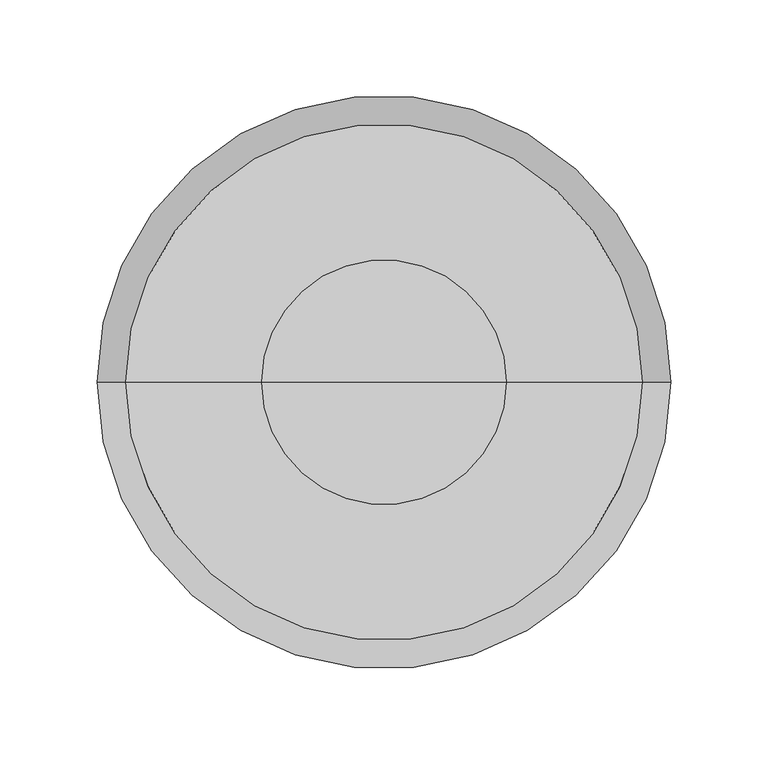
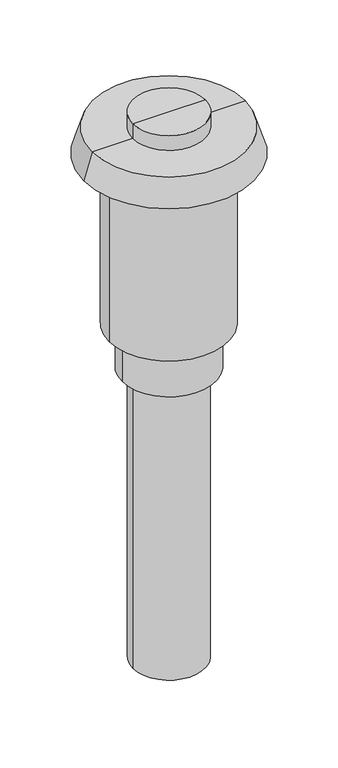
"""IFC4 building model written with IfcOpenShell, lengths in millimetres: air terminal geometry, NLRS_57_AIR_WPB_roof ventilation terminals_M&G : EPS Black, ø125 - L=1000mm."""

from ifc_helpers import new_model, si_unit, frame, origin, place, context, project, spatial, polyline, circle_curve, source, transform, mapped, element, save
from ifc_brep_helpers import plane_surface, cylinder_surface, revolved_surface, advanced_brep


def air_terminal_684b394b(model_context):
    return source(origin(), model_context, "Body", "AdvancedBrep", [
        advanced_brep(
        [(63.0, 0.0, 467.0), (-63.0, 0.0, 467.0), (0.0, 0.0, 467.0), (63.0, 0.0, 440.0), (-63.0, 0.0, 440.0), (0.0, 0.0, 440.0)],
        [
            (0, 1, circle_curve(frame((0.0, 0.0, 467.0), z_axis=(0.0, 0.0, 1.0), x_axis=(-1.0, 0.0, 0.0)), 63.0)),
            (1, 2),
            (2, 0),
            (1, 0, circle_curve(frame((0.0, 0.0, 467.0), z_axis=(0.0, 0.0, 1.0), x_axis=(-1.0, 0.0, 0.0)), 63.0)),
            (3, 4, circle_curve(frame((0.0, 0.0, 440.0), z_axis=(0.0, 0.0, 1.0), x_axis=(-1.0, 0.0, 0.0)), 63.0)),
            (4, 1),
            (0, 3),
            (4, 3, circle_curve(frame((0.0, 0.0, 440.0), z_axis=(0.0, 0.0, 1.0), x_axis=(-1.0, 0.0, 0.0)), 63.0)),
            (5, 4),
            (3, 5),
        ],
        [
            plane_surface(frame((0.0, 0.0, 467.0), z_axis=(0.0, 0.0, 1.0), x_axis=(-1.0, 0.0, 0.0))),
            cylinder_surface(frame((0.0, 0.0, 2170.3150031), z_axis=(0.0, 0.0, -1.0), x_axis=(-1.0, 0.0, 0.0)), 63.0),
            plane_surface(frame((0.0, 0.0, 440.0), z_axis=(0.0, 0.0, -1.0), x_axis=(-1.0, 0.0, 0.0))),
        ],
        [
            (0, [[1, 2, 3]]),
            (0, [[4, -3, -2]]),
            (1, [[5, 6, -1, 7]]),
            (1, [[8, -7, -4, -6]]),
            (2, [[9, -5, 10]]),
            (2, [[-10, -8, -9]]),
        ],
    ),
        advanced_brep(
        [(81.0, 0.0, 392.0), (-81.0, 0.0, 392.0), (0.0, 0.0, 392.0), (81.0, 0.0, 0.0), (-81.0, 0.0, 0.0), (0.0, 0.0, 0.0)],
        [
            (0, 1, circle_curve(frame((0.0, 0.0, 392.0), z_axis=(0.0, 0.0, 1.0), x_axis=(-1.0, 0.0, 0.0)), 81.0)),
            (1, 2),
            (2, 0),
            (1, 0, circle_curve(frame((0.0, 0.0, 392.0), z_axis=(0.0, 0.0, 1.0), x_axis=(-1.0, 0.0, 0.0)), 81.0)),
            (3, 4, circle_curve(frame((0.0, 0.0, 0.0), z_axis=(0.0, 0.0, 1.0), x_axis=(-1.0, 0.0, 0.0)), 81.0)),
            (4, 1),
            (0, 3),
            (4, 3, circle_curve(frame((0.0, 0.0, 0.0), z_axis=(0.0, 0.0, 1.0), x_axis=(-1.0, 0.0, 0.0)), 81.0)),
            (5, 4),
            (3, 5),
        ],
        [
            plane_surface(frame((0.0, 0.0, 392.0), z_axis=(0.0, 0.0, 1.0), x_axis=(-1.0, 0.0, 0.0))),
            cylinder_surface(frame((0.0, 0.0, 2214.3150031), z_axis=(0.0, 0.0, -1.0), x_axis=(-1.0, 0.0, 0.0)), 81.0),
            plane_surface(frame((0.0, 0.0, 0.0), z_axis=(0.0, 0.0, -1.0), x_axis=(-1.0, 0.0, 0.0))),
        ],
        [
            (0, [[1, 2, 3]]),
            (0, [[4, -3, -2]]),
            (1, [[5, 6, -1, 7]]),
            (1, [[8, -7, -4, -6]]),
            (2, [[9, -5, 10]]),
            (2, [[-10, -8, -9]]),
        ],
    ),
        advanced_brep(
        [(103.2, 0.0, 392.0), (-103.2, 0.0, 392.0), (0.0, 0.0, 392.0), (103.2, 0.0, 81.0), (-103.2, 0.0, 81.0), (0.0, 0.0, 81.0)],
        [
            (0, 1, circle_curve(frame((0.0, 0.0, 392.0), z_axis=(0.0, 0.0, 1.0), x_axis=(-1.0, 0.0, 0.0)), 103.2)),
            (1, 2),
            (2, 0),
            (1, 0, circle_curve(frame((0.0, 0.0, 392.0), z_axis=(0.0, 0.0, 1.0), x_axis=(-1.0, 0.0, 0.0)), 103.2)),
            (3, 4, circle_curve(frame((0.0, 0.0, 81.0), z_axis=(0.0, 0.0, 1.0), x_axis=(-1.0, 0.0, 0.0)), 103.2)),
            (4, 1),
            (0, 3),
            (4, 3, circle_curve(frame((0.0, 0.0, 81.0), z_axis=(0.0, 0.0, 1.0), x_axis=(-1.0, 0.0, 0.0)), 103.2)),
            (5, 4),
            (3, 5),
        ],
        [
            plane_surface(frame((0.0, 0.0, 392.0), z_axis=(0.0, 0.0, 1.0), x_axis=(-1.0, 0.0, 0.0))),
            cylinder_surface(frame((0.0, 0.0, 2214.3150031), z_axis=(0.0, 0.0, -1.0), x_axis=(-1.0, 0.0, 0.0)), 103.2),
            plane_surface(frame((0.0, 0.0, 81.0), z_axis=(0.0, 0.0, -1.0), x_axis=(-1.0, 0.0, 0.0))),
        ],
        [
            (0, [[1, 2, 3]]),
            (0, [[4, -3, -2]]),
            (1, [[5, 6, -1, 7]]),
            (1, [[8, -7, -4, -6]]),
            (2, [[9, -5, 10]]),
            (2, [[-10, -8, -9]]),
        ],
    ),
        advanced_brep(
        [(133.0, 0.0, 440.0), (-133.0, 0.0, 440.0), (0.0, 0.0, 440.0), (147.75, 0.0, 392.0), (-147.75, 0.0, 392.0), (0.0, 0.0, 392.0)],
        [
            (0, 1, circle_curve(frame((0.0, 0.0, 440.0), z_axis=(0.0, 0.0, 1.0), x_axis=(-1.0, 0.0, 0.0)), 133.0)),
            (1, 2),
            (2, 0),
            (1, 0, circle_curve(frame((0.0, 0.0, 440.0), z_axis=(0.0, 0.0, 1.0), x_axis=(-1.0, 0.0, 0.0)), 133.0)),
            (3, 4, circle_curve(frame((0.0, 0.0, 392.0), z_axis=(0.0, 0.0, 1.0), x_axis=(-1.0, 0.0, 0.0)), 147.75)),
            (4, 1),
            (0, 3),
            (4, 3, circle_curve(frame((0.0, 0.0, 392.0), z_axis=(0.0, 0.0, 1.0), x_axis=(-1.0, 0.0, 0.0)), 147.75)),
            (5, 4),
            (3, 5),
        ],
        [
            plane_surface(frame((0.0, 0.0, 440.0), z_axis=(0.0, 0.0, 1.0), x_axis=(-1.0, 0.0, 0.0))),
            revolved_surface(polyline([(-133.0, 0.0, 440.0), (-147.75, 0.0, 392.0)]), (0.0, 0.0, 2160.3150031), (0.0, 0.0, -1.0)),
            plane_surface(frame((0.0, 0.0, 392.0), z_axis=(0.0, 0.0, -1.0), x_axis=(-1.0, 0.0, 0.0))),
        ],
        [
            (0, [[1, 2, 3]]),
            (0, [[4, -3, -2]]),
            (1, [[5, 6, -1, 7]]),
            (1, [[8, -7, -4, -6]]),
            (2, [[9, -5, 10]]),
            (2, [[-10, -8, -9]]),
        ],
    ),
        advanced_brep(
        [(62.5, 0.0, -533.0), (-62.5, 0.0, -533.0), (-62.5, 0.0, 0.0), (62.5, 0.0, 0.0), (0.0, 0.0, -533.0), (0.0, 0.0, 0.0)],
        [
            (0, 1, circle_curve(frame((0.0, 0.0, -533.0), z_axis=(0.0, 0.0, 1.0), x_axis=(-1.0, 0.0, 0.0)), 62.5)),
            (1, 2),
            (2, 3, circle_curve(frame((0.0, 0.0, 0.0), z_axis=(0.0, 0.0, -1.0), x_axis=(-1.0, 0.0, 0.0)), 62.5)),
            (3, 0),
            (1, 0, circle_curve(frame((0.0, 0.0, -533.0), z_axis=(0.0, 0.0, 1.0), x_axis=(-1.0, 0.0, 0.0)), 62.5)),
            (3, 2, circle_curve(frame((0.0, 0.0, 0.0), z_axis=(0.0, 0.0, -1.0), x_axis=(-1.0, 0.0, 0.0)), 62.5)),
            (4, 1),
            (0, 4),
            (2, 5),
            (5, 3),
        ],
        [
            cylinder_surface(frame((0.0, 0.0, 2160.3150031), z_axis=(0.0, 0.0, -1.0), x_axis=(-1.0, 0.0, 0.0)), 62.5),
            plane_surface(frame((0.0, 0.0, -533.0), z_axis=(0.0, 0.0, -1.0), x_axis=(-1.0, 0.0, 0.0))),
            plane_surface(frame((0.0, 0.0, 0.0), z_axis=(0.0, 0.0, 1.0), x_axis=(-1.0, 0.0, 0.0))),
        ],
        [
            (0, [[1, 2, 3, 4]]),
            (0, [[5, -4, 6, -2]]),
            (1, [[7, -1, 8]]),
            (1, [[-8, -5, -7]]),
            (2, [[-3, 9, 10]]),
            (2, [[-6, -10, -9]]),
        ],
    ),
    ])


if __name__ == "__main__":
    model = new_model("IFC4")
    model_context = context("Model", 3, world=origin())
    ifc_project = project(units=[si_unit("LENGTHUNIT", "METRE", prefix="MILLI")], contexts=[model_context])
    site = spatial("IfcSite", under=ifc_project)
    building = spatial("IfcBuilding", under=site)
    placement = place(None, origin())
    air_terminal_shape = air_terminal_684b394b(model_context)
    element("IfcAirTerminal", 1, ObjectType="NLRS_57_AIR_WPB_roof ventilation terminals_M&G : EPS Black, ø125 - L=1000mm", at=placement, inside=building, context=model_context, shape_type="MappedRepresentation", body=[
        mapped(air_terminal_shape, transform((0.0, 0.0, 0.0), x_axis=(1.0, 0.0, 0.0), y_axis=(0.0, 1.0, 0.0), z_axis=(0.0, 0.0, 1.0))),
    ])
    save(model, "model.ifc")
